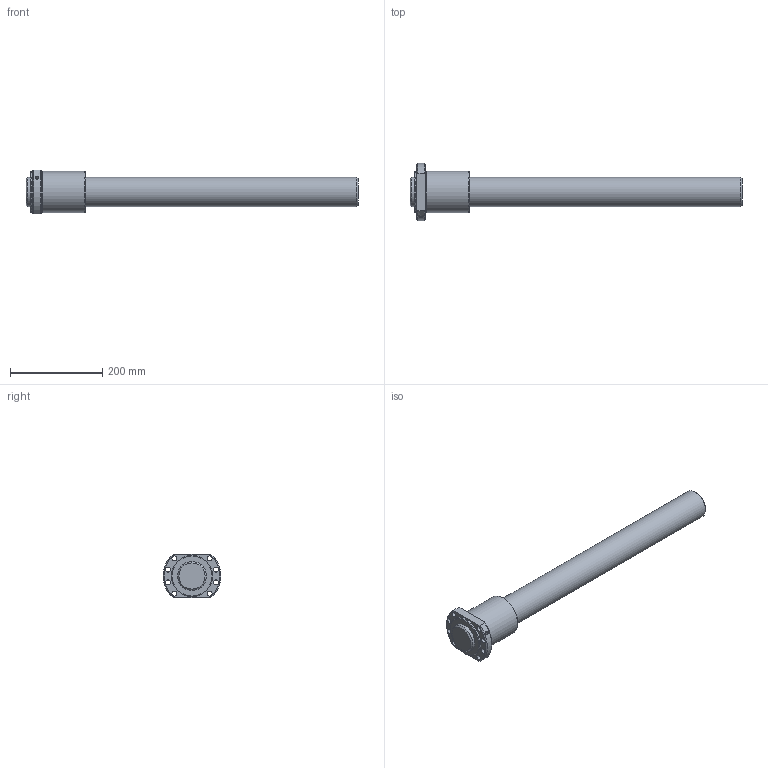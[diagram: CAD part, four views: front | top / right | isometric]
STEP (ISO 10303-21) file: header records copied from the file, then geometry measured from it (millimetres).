
FILE_DESCRIPTION(/* description */ ('STEP AP214'),/* implementation_level */ '2;1');
FILE_NAME(/* name */ 'EBB6310-6RRG0+720L C0(581G000)_rev',/* time_stamp */ '2023-08-03T13:17:06+02:00',/* author */ ('License CC BY-ND 4.0'),/* organization */ ('CADENAS'),/* preprocessor_version */ 'ST-DEVELOPER v19.3',/* originating_system */ 'PARTsolutions',/* authorisation */ ' ');
FILE_SCHEMA (('AUTOMOTIVE_DESIGN {1 0 10303 214 3 1 1}'));
Length unit declared in the file: millimetre
Products named in the file (3): EBB6310-6RRG0+720L C0(581G000)_rev; EBB 6310-6RR Nut1; EBB 6310-65810 Shaft1
Assembly tree (2 placements, depth 2):
  EBB6310-6RRG0+720L C0(581G000)_rev
    EBB 6310-6RR Nut1
    EBB 6310-65810 Shaft1
Bounding box: 720 x 125 x 95 mm (x, y, z)
Volume: 2686407.9 mm3; surface area: 226275.6 mm2
Topology: 2 solids, 2 shells, 34 faces, 77 edges, 50 vertices
Faces by surface type: cylinder 16, cone 9, plane 9
Full cylindrical faces by diameter (mm): 6.647 x1, 11 x8, 63 x2, 84.6 x1, 90 x2
Entity records: 1003 total; most frequent: CARTESIAN_POINT 187, DIRECTION 160, ORIENTED_EDGE 114, EDGE_LOOP 76, FACE_BOUND 76, AXIS2_PLACEMENT_3D 76, EDGE_CURVE 57, VERTEX_POINT 49
